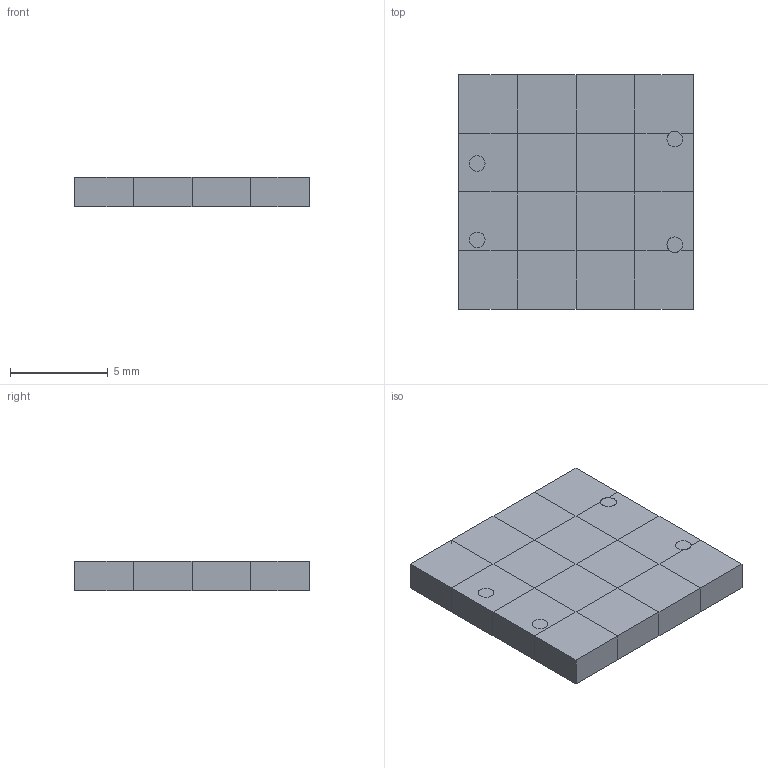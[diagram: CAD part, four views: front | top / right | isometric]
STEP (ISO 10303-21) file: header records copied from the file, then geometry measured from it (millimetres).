
FILE_DESCRIPTION(('Open CASCADE Model'),'2;1');
FILE_NAME('Open CASCADE Shape Model','2026-11-27T04:28:22',('Author'),( 'Open CASCADE'),'Open CASCADE STEP processor 7.9','Open CASCADE 7.9' ,'Unknown');
FILE_SCHEMA(('AUTOMOTIVE_DESIGN { 1 0 10303 214 1 1 1 1 }'));
Length unit declared in the file: millimetre
Products named in the file (3): manifold_S4; fluid; solid
Assembly tree (2 placements, depth 2):
  manifold_S4
    fluid
    solid
Bounding box: 12 x 12 x 1.5 mm (x, y, z)
Volume: 216 mm3; surface area: 1428.4 mm2
Topology: 2 solids, 2 shells, 1216 faces, 4184 edges, 2340 vertices
Faces by surface type: plane 1208, cylinder 8
Full cylindrical faces by diameter (mm): 0.8 x8
Entity records: 98476 total; most frequent: CARTESIAN_POINT 17133, DIRECTION 14772, LINE 12034, VECTOR 12034, ORIENTED_EDGE 8368, PCURVE 8368, DEFINITIONAL_REPRESENTATION 8368, EDGE_CURVE 4184
